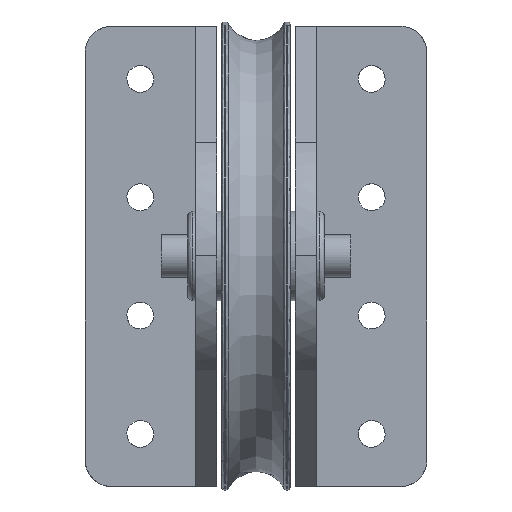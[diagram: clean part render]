
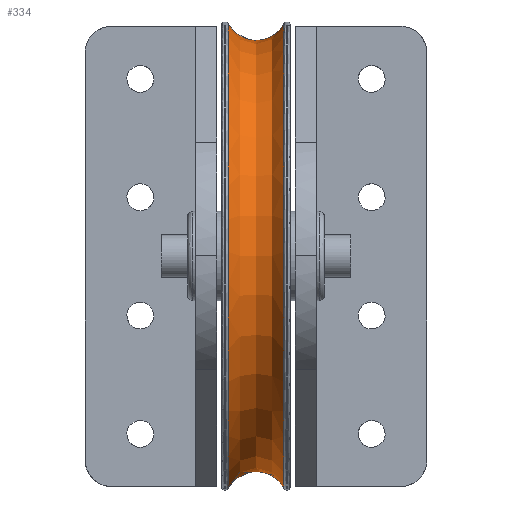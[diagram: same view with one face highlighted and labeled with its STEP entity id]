
A CAD part, top view. The second image highlights one B-rep face of the part: STEP entity #334.
In plain terms, the highlighted free-form (B-spline) face has degree [2, 2] with [5, 5] control points.
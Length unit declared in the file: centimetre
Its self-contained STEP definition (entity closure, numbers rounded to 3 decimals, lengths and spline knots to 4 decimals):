
#334=ADVANCED_FACE($,(#660),#3441,.T.);
#660=FACE_OUTER_BOUND($,#964,.T.);
#964=EDGE_LOOP($,(#1987,#1988,#1989,#1990));
#1987=ORIENTED_EDGE($,*,*,#2859,.T.);
#1988=ORIENTED_EDGE($,*,*,#2860,.T.);
#1989=ORIENTED_EDGE($,*,*,#2768,.F.);
#1990=ORIENTED_EDGE($,*,*,#2858,.F.);
#2768=EDGE_CURVE($,#3207,#3208,#3758,.T.);
#2858=EDGE_CURVE($,#3261,#3207,#3816,.T.);
#2859=EDGE_CURVE($,#3261,#3262,#3817,.T.);
#2860=EDGE_CURVE($,#3262,#3208,#3818,.T.);
#3207=VERTEX_POINT($,#10187);
#3208=VERTEX_POINT($,#10188);
#3261=VERTEX_POINT($,#10241);
#3262=VERTEX_POINT($,#10242);
#3441=(
BOUNDED_SURFACE()
B_SPLINE_SURFACE(2,2,((#9538,#9539,#9540,#9541,#9542),(#9543,#9544,#9545,
#9546,#9547),(#9548,#9549,#9550,#9551,#9552),(#9553,#9554,#9555,#9556,#9557),
(#9558,#9559,#9560,#9561,#9562)),.UNSPECIFIED.,.F.,.F.,.F.)
B_SPLINE_SURFACE_WITH_KNOTS((3,2,3),(3,2,3),(0.,1.5708,3.1416),
(43.4559,56.5487,69.6415),.UNSPECIFIED.)
GEOMETRIC_REPRESENTATION_ITEM()
RATIONAL_B_SPLINE_SURFACE(((1.,0.855,1.,0.855,1.),
(0.707,0.604,0.707,0.604,
0.707),(1.,0.855,1.,0.855,1.),(0.707,
0.604,0.707,0.604,0.707),
(1.,0.855,1.,0.855,1.)))
REPRESENTATION_ITEM($)
SURFACE()
);
#3758=(
BOUNDED_CURVE()
B_SPLINE_CURVE(2,(#8804,#8805,#8806,#8807,#8808),.UNSPECIFIED.,.F.,.F.)
B_SPLINE_CURVE_WITH_KNOTS((3,2,3),(43.4559,56.5487,69.6415),
.UNSPECIFIED.)
CURVE()
GEOMETRIC_REPRESENTATION_ITEM()
RATIONAL_B_SPLINE_CURVE((1.,0.855,1.,0.855,1.))
REPRESENTATION_ITEM($)
);
#3816=(
BOUNDED_CURVE()
B_SPLINE_CURVE(2,(#9142,#9143,#9144,#9145,#9146),.UNSPECIFIED.,.F.,.F.)
B_SPLINE_CURVE_WITH_KNOTS((3,2,3),(-3.1416,-1.5708,0.),
.UNSPECIFIED.)
CURVE()
GEOMETRIC_REPRESENTATION_ITEM()
RATIONAL_B_SPLINE_CURVE((1.,0.707,1.,0.707,1.))
REPRESENTATION_ITEM($)
);
#3817=(
BOUNDED_CURVE()
B_SPLINE_CURVE(2,(#9147,#9148,#9149,#9150,#9151),.UNSPECIFIED.,.F.,.F.)
B_SPLINE_CURVE_WITH_KNOTS((3,2,3),(43.4559,56.5487,69.6415),
.UNSPECIFIED.)
CURVE()
GEOMETRIC_REPRESENTATION_ITEM()
RATIONAL_B_SPLINE_CURVE((1.,0.855,1.,0.855,1.))
REPRESENTATION_ITEM($)
);
#3818=(
BOUNDED_CURVE()
B_SPLINE_CURVE(2,(#9152,#9153,#9154,#9155,#9156),.UNSPECIFIED.,.F.,.F.)
B_SPLINE_CURVE_WITH_KNOTS((3,2,3),(-3.1416,-1.5708,0.),
.UNSPECIFIED.)
CURVE()
GEOMETRIC_REPRESENTATION_ITEM()
RATIONAL_B_SPLINE_CURVE((1.,0.707,1.,0.707,1.))
REPRESENTATION_ITEM($)
);
#8804=CARTESIAN_POINT($,(232.6857,-0.9615,99.));
#8805=CARTESIAN_POINT($,(229.324,5.5,99.));
#8806=CARTESIAN_POINT($,(222.0402,5.5,99.));
#8807=CARTESIAN_POINT($,(214.7565,5.5,99.));
#8808=CARTESIAN_POINT($,(211.3948,-0.9615,99.));
#9142=CARTESIAN_POINT($,(232.6857,175.9615,99.));
#9143=CARTESIAN_POINT($,(232.6857,175.9615,187.4615));
#9144=CARTESIAN_POINT($,(232.6857,87.5,187.4615));
#9145=CARTESIAN_POINT($,(232.6857,-0.9615,187.4615));
#9146=CARTESIAN_POINT($,(232.6857,-0.9615,99.));
#9147=CARTESIAN_POINT($,(232.6857,175.9615,99.));
#9148=CARTESIAN_POINT($,(229.324,169.5,99.));
#9149=CARTESIAN_POINT($,(222.0402,169.5,99.));
#9150=CARTESIAN_POINT($,(214.7565,169.5,99.));
#9151=CARTESIAN_POINT($,(211.3948,175.9615,99.));
#9152=CARTESIAN_POINT($,(211.3948,175.9615,99.));
#9153=CARTESIAN_POINT($,(211.3948,175.9615,187.4615));
#9154=CARTESIAN_POINT($,(211.3948,87.5,187.4615));
#9155=CARTESIAN_POINT($,(211.3948,-0.9615,187.4615));
#9156=CARTESIAN_POINT($,(211.3948,-0.9615,99.));
#9538=CARTESIAN_POINT($,(232.6857,-0.9615,99.));
#9539=CARTESIAN_POINT($,(229.324,5.5,99.));
#9540=CARTESIAN_POINT($,(222.0402,5.5,99.));
#9541=CARTESIAN_POINT($,(214.7565,5.5,99.));
#9542=CARTESIAN_POINT($,(211.3948,-0.9615,99.));
#9543=CARTESIAN_POINT($,(232.6857,-0.9615,187.4615));
#9544=CARTESIAN_POINT($,(229.324,5.5,181.));
#9545=CARTESIAN_POINT($,(222.0402,5.5,181.));
#9546=CARTESIAN_POINT($,(214.7565,5.5,181.));
#9547=CARTESIAN_POINT($,(211.3948,-0.9615,187.4615));
#9548=CARTESIAN_POINT($,(232.6857,87.5,187.4615));
#9549=CARTESIAN_POINT($,(229.324,87.5,181.));
#9550=CARTESIAN_POINT($,(222.0402,87.5,181.));
#9551=CARTESIAN_POINT($,(214.7565,87.5,181.));
#9552=CARTESIAN_POINT($,(211.3948,87.5,187.4615));
#9553=CARTESIAN_POINT($,(232.6857,175.9615,187.4615));
#9554=CARTESIAN_POINT($,(229.324,169.5,181.));
#9555=CARTESIAN_POINT($,(222.0402,169.5,181.));
#9556=CARTESIAN_POINT($,(214.7565,169.5,181.));
#9557=CARTESIAN_POINT($,(211.3948,175.9615,187.4615));
#9558=CARTESIAN_POINT($,(232.6857,175.9615,99.));
#9559=CARTESIAN_POINT($,(229.324,169.5,99.));
#9560=CARTESIAN_POINT($,(222.0402,169.5,99.));
#9561=CARTESIAN_POINT($,(214.7565,169.5,99.));
#9562=CARTESIAN_POINT($,(211.3948,175.9615,99.));
#10187=CARTESIAN_POINT($,(232.6857,-0.9615,99.));
#10188=CARTESIAN_POINT($,(211.3948,-0.9615,99.));
#10241=CARTESIAN_POINT($,(232.6857,175.9615,99.));
#10242=CARTESIAN_POINT($,(211.3948,175.9615,99.));
